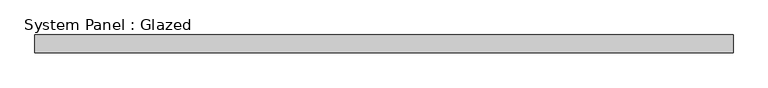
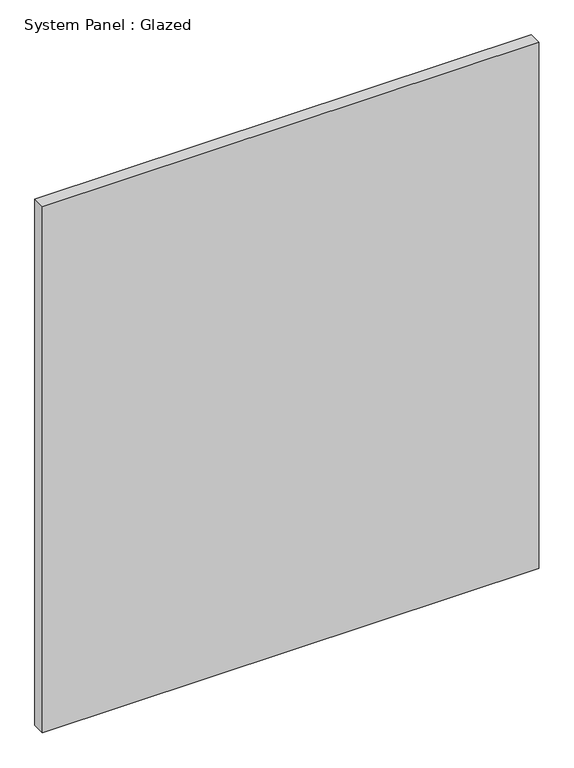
"""IFC4 building model written with IfcOpenShell, lengths in millimetres: plate geometry, System Panel : Glazed."""

from ifc_helpers import new_model, si_unit, origin, origin_with_axes, place, context, project, spatial, polyline, outline, extrude, source, transform, mapped, element, save


def system_panel_glazed_c6294ef1(model_context):
    return source(origin(), model_context, "Body", "SweptSolid", [
        extrude(outline(polyline([(501.1964285, 19.05), (-501.1964285, 19.05), (-501.1964285, 44.45), (501.1964285, 44.45), (501.1964285, 19.05)])), origin_with_axes(), (0.0, 0.0, 1.0), 1123.95),
    ])


if __name__ == "__main__":
    model = new_model("IFC4")
    model_context = context("Model", 3, world=origin())
    ifc_project = project(units=[si_unit("LENGTHUNIT", "METRE", prefix="MILLI")], contexts=[model_context])
    site = spatial("IfcSite", under=ifc_project)
    building = spatial("IfcBuilding", under=site)
    placement = place(None, origin())
    system_panel_glazed_shape = system_panel_glazed_c6294ef1(model_context)
    element("IfcPlate", 1, ObjectType="System Panel : Glazed", at=placement, inside=building, context=model_context, shape_type="MappedRepresentation", body=[
        mapped(system_panel_glazed_shape, transform((0.0, 0.0, 0.0), x_axis=(1.0, 0.0, 0.0), y_axis=(0.0, 1.0, 0.0), z_axis=(0.0, 0.0, 1.0))),
    ])
    save(model, "model.ifc")
